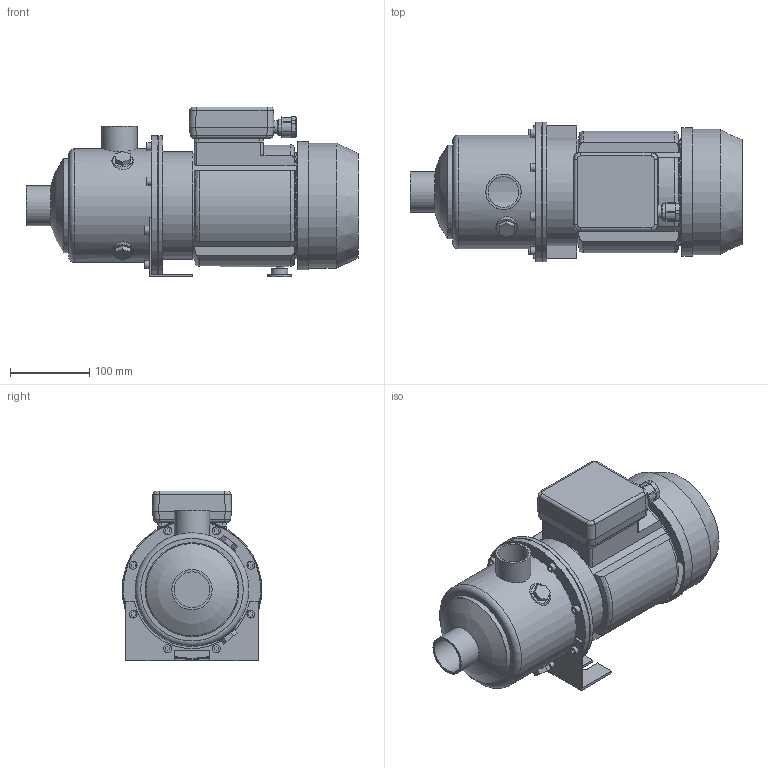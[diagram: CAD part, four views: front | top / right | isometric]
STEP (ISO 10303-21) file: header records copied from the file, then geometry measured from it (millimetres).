
FILE_DESCRIPTION(/* description */ ('Unknown'),/* implementation_level */ '2;1');
FILE_NAME(/* name */ 'MH 9 [2] T6 IE3',/* time_stamp */ '2026-07-10T15:17:08+02:00',/* author */ ('Unknown'),/* organization */ ('Unknown'),/* preprocessor_version */ 'ST-DEVELOPER v20',/* originating_system */ 'Solid Edge',/* authorisation */ 'Unknown');
FILE_SCHEMA (('AUTOMOTIVE_DESIGN {1 0 10303 214 3 1 1}'));
Length unit declared in the file: millimetre
Products named in the file (10): MH 9 [2] T6 IE3; Flangia motore Tonda M80; Corpo MH 9 [2-3]; Motore MEC 80 - T; carcassa MEC 80; Copriventola MEC 80; Ghiera PG13,5 cod. SAV.GHI.20; Basetta MEC 80-90-100 T; Piedino MEC 80 int.90; Staffa 3-5-9 int.90
Assembly tree (9 placements, depth 3):
  MH 9 [2] T6 IE3
    Flangia motore Tonda M80
    Corpo MH 9 [2-3]
    Motore MEC 80 - T
      carcassa MEC 80
      Copriventola MEC 80
      Ghiera PG13,5 cod. SAV.GHI.20
      Basetta MEC 80-90-100 T
    Piedino MEC 80 int.90
    Staffa 3-5-9 int.90
Bounding box: 419.1 x 176.5 x 214.5 mm (x, y, z)
Volume: 2317444.2 mm3; surface area: 558289.7 mm2
Topology: 8 solids, 8 shells, 316 faces, 750 edges, 497 vertices
Faces by surface type: plane 179, cylinder 100, cone 18, torus 9, bspline 8, sphere 2
Full cylindrical faces by diameter (mm): 7 x4, 10 x9, 13 x1, 17 x1, 19.73 x1, 20.4 x1, 21 x1, 30 x1, 38.952 x1, 44.5 x1, 44.845 x1, 50.8 x1, 116.1 x1, 118.5 x1, 125 x1, 130 x3, 134 x1, 136 x1, 141.1 x1, 143.5 x1, 153 x1, 157 x1, 158 x1, 162 x1, 173.5 x1, 174.1 x1, 176.5 x2
Entity records: 10407 total; most frequent: CARTESIAN_POINT 1911, DIRECTION 1485, ORIENTED_EDGE 1324, EDGE_CURVE 662, AXIS2_PLACEMENT_3D 551, VERTEX_POINT 468, EDGE_LOOP 432, FACE_BOUND 432
